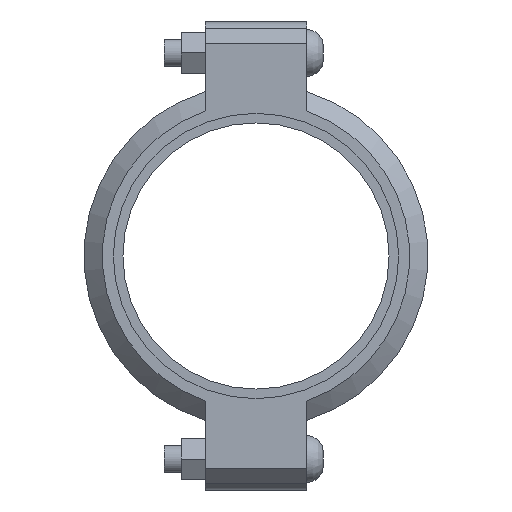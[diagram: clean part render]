
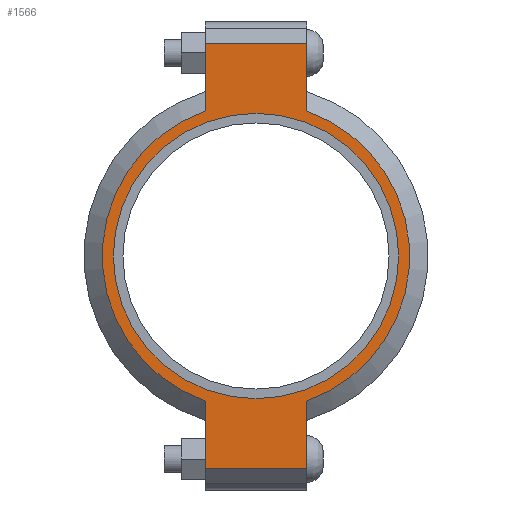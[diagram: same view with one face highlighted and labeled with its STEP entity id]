
A CAD part, left-side view. The second image highlights one B-rep face of the part: STEP entity #1566.
In plain terms, the highlighted planar face has unit normal (-1, 0, 0) as drawn and (0, 0, 1) by its records, which use the part's own axes.
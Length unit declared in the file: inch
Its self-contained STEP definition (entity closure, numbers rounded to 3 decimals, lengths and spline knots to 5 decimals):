
#190=LINE('',#2742,#283);
#198=LINE('',#2778,#291);
#205=LINE('',#2799,#298);
#214=LINE('',#2831,#307);
#215=LINE('',#2835,#308);
#216=LINE('',#2837,#309);
#283=VECTOR('',#2234,0.3937);
#291=VECTOR('',#2250,0.3937);
#298=VECTOR('',#2269,0.3937);
#307=VECTOR('',#2294,0.3937);
#308=VECTOR('',#2299,0.3937);
#309=VECTOR('',#2300,0.3937);
#365=FACE_BOUND('',#543,.T.);
#437=FACE_OUTER_BOUND('',#542,.T.);
#542=EDGE_LOOP('',(#1307,#1308,#1309,#1310,#1311,#1312,#1313,#1314));
#543=EDGE_LOOP('',(#1315));
#615=CIRCLE('',#1794,3.25);
#641=CIRCLE('',#1853,3.5);
#642=CIRCLE('',#1854,3.5);
#707=VERTEX_POINT('',#2558);
#750=VERTEX_POINT('',#2739);
#751=VERTEX_POINT('',#2741);
#762=VERTEX_POINT('',#2773);
#763=VERTEX_POINT('',#2777);
#770=VERTEX_POINT('',#2796);
#771=VERTEX_POINT('',#2798);
#781=VERTEX_POINT('',#2834);
#782=VERTEX_POINT('',#2836);
#863=EDGE_CURVE('',#707,#707,#615,.T.);
#924=EDGE_CURVE('',#751,#750,#190,.T.);
#938=EDGE_CURVE('',#763,#762,#198,.T.);
#948=EDGE_CURVE('',#771,#770,#205,.T.);
#963=EDGE_CURVE('',#763,#750,#214,.T.);
#964=EDGE_CURVE('',#762,#771,#641,.T.);
#965=EDGE_CURVE('',#781,#770,#215,.T.);
#966=EDGE_CURVE('',#781,#782,#216,.T.);
#967=EDGE_CURVE('',#782,#751,#642,.T.);
#1307=ORIENTED_EDGE('',*,*,#963,.F.);
#1308=ORIENTED_EDGE('',*,*,#938,.T.);
#1309=ORIENTED_EDGE('',*,*,#964,.T.);
#1310=ORIENTED_EDGE('',*,*,#948,.T.);
#1311=ORIENTED_EDGE('',*,*,#965,.F.);
#1312=ORIENTED_EDGE('',*,*,#966,.T.);
#1313=ORIENTED_EDGE('',*,*,#967,.T.);
#1314=ORIENTED_EDGE('',*,*,#924,.T.);
#1315=ORIENTED_EDGE('',*,*,#863,.T.);
#1408=PLANE('',#1852);
#1566=ADVANCED_FACE('',(#437,#365),#1408,.T.);
#1794=AXIS2_PLACEMENT_3D('',#2560,#2110,#2111);
#1852=AXIS2_PLACEMENT_3D('',#2832,#2295,#2296);
#1853=AXIS2_PLACEMENT_3D('',#2833,#2297,#2298);
#1854=AXIS2_PLACEMENT_3D('',#2838,#2301,#2302);
#2110=DIRECTION('center_axis',(0.,0.,-1.));
#2111=DIRECTION('ref_axis',(1.,0.,0.));
#2234=DIRECTION('',(1.,0.,0.));
#2250=DIRECTION('',(-1.,0.,0.));
#2269=DIRECTION('',(-1.,0.,0.));
#2294=DIRECTION('',(0.,-1.,0.));
#2295=DIRECTION('center_axis',(0.,0.,1.));
#2296=DIRECTION('ref_axis',(-1.,0.,0.));
#2297=DIRECTION('center_axis',(0.,0.,1.));
#2298=DIRECTION('ref_axis',(1.,0.,0.));
#2299=DIRECTION('',(0.,1.,0.));
#2300=DIRECTION('',(1.,0.,0.));
#2301=DIRECTION('center_axis',(0.,0.,1.));
#2302=DIRECTION('ref_axis',(1.,0.,0.));
#2558=CARTESIAN_POINT('',(-3.25,0.,1.04));
#2560=CARTESIAN_POINT('Origin',(0.,0.,1.04));
#2739=CARTESIAN_POINT('',(4.83,-1.156,1.04));
#2741=CARTESIAN_POINT('',(3.30358,-1.156,1.04));
#2742=CARTESIAN_POINT('',(5.33,-1.156,1.04));
#2773=CARTESIAN_POINT('',(3.30358,1.156,1.04));
#2777=CARTESIAN_POINT('',(4.83,1.156,1.04));
#2778=CARTESIAN_POINT('',(-5.33,1.156,1.04));
#2796=CARTESIAN_POINT('',(-4.83,1.156,1.04));
#2798=CARTESIAN_POINT('',(-3.30358,1.156,1.04));
#2799=CARTESIAN_POINT('',(-5.33,1.156,1.04));
#2831=CARTESIAN_POINT('',(4.83,-0.578,1.04));
#2832=CARTESIAN_POINT('Origin',(0.,0.,
1.04));
#2833=CARTESIAN_POINT('Origin',(0.,0.,1.04));
#2834=CARTESIAN_POINT('',(-4.83,-1.156,1.04));
#2835=CARTESIAN_POINT('',(-4.83,0.578,1.04));
#2836=CARTESIAN_POINT('',(-3.30358,-1.156,1.04));
#2837=CARTESIAN_POINT('',(5.33,-1.156,1.04));
#2838=CARTESIAN_POINT('Origin',(0.,0.,1.04));
